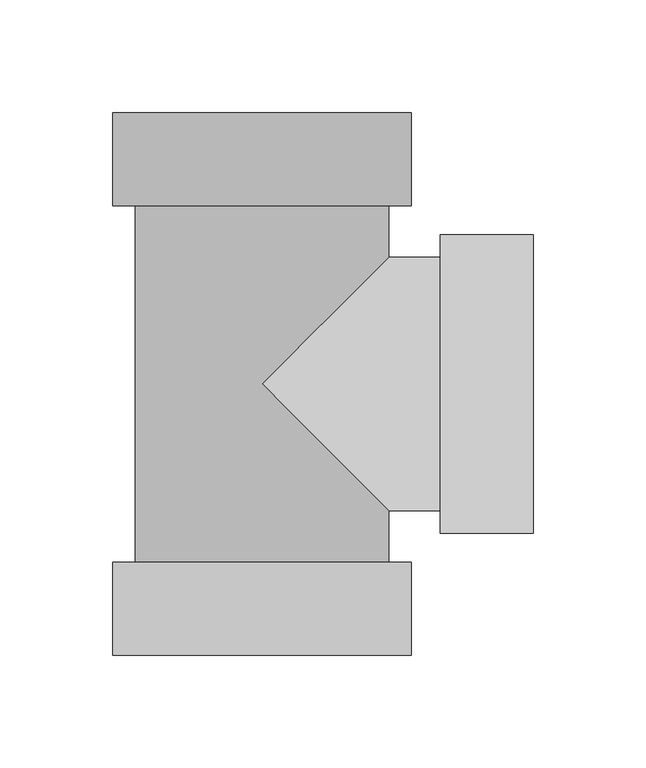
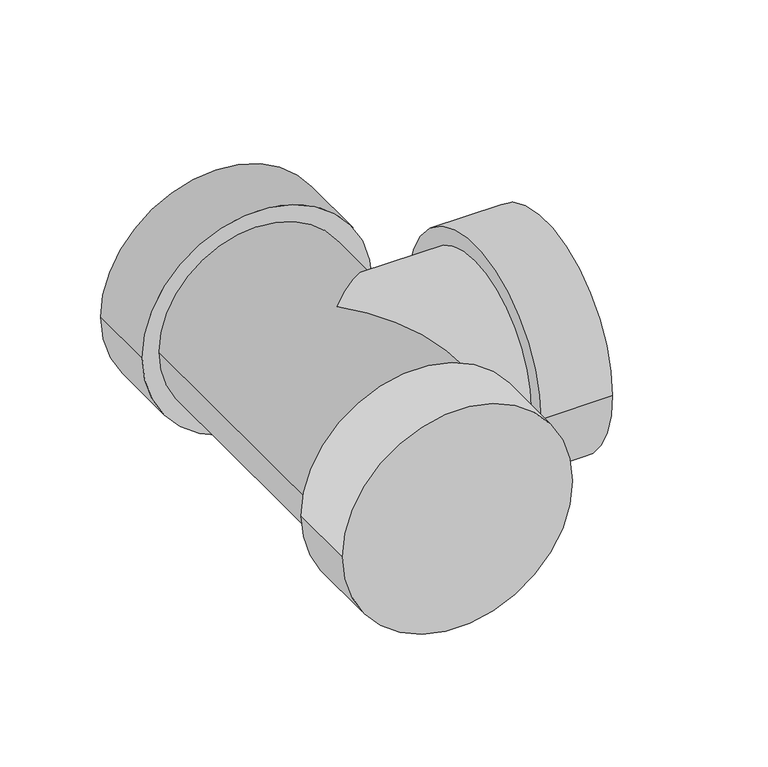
"""IFC4 building model written with IfcOpenShell, lengths in millimetres: pipe fitting geometry, 01011003 : Tes 90º."""

from ifc_helpers import new_model, si_unit, point, frame, origin, origin_2d, place, context, project, spatial, circle_curve, ellipse_curve, trimmed, segment, composite_curve, outline, extrude, source, transform, mapped, element, save
from ifc_brep_helpers import plane_surface, cylinder_surface, advanced_brep


def pipe_fitting_3400dff5(model_context):
    return source(origin(), model_context, "Body", "SolidModel", [
        advanced_brep(
        [(-56.1, 81.0, 0.0), (56.1, 81.0, 0.0), (-56.1, -81.0, 0.0), (56.1, -81.0, 0.0), (56.1, -56.1, 0.0), (0.0, 0.0, 56.1), (56.1, 56.1, 0.0), (0.0, 0.0, -56.1), (81.0, 56.1, 0.0), (81.0, -56.1, 0.0)],
        [
            (0, 1, circle_curve(frame((0.0, 81.0, 0.0), z_axis=(0.0, 1.0, 0.0), x_axis=(1.0, 0.0, 0.0)), 56.1)),
            (1, 0, circle_curve(frame((0.0, 81.0, 0.0), z_axis=(0.0, 1.0, 0.0), x_axis=(1.0, 0.0, 0.0)), 56.1)),
            (2, 3, circle_curve(frame((0.0, -81.0, 0.0), z_axis=(0.0, -1.0, 0.0), x_axis=(1.0, 0.0, 0.0)), 56.1)),
            (3, 2, circle_curve(frame((0.0, -81.0, 0.0), z_axis=(0.0, -1.0, 0.0), x_axis=(1.0, 0.0, 0.0)), 56.1)),
            (0, 2),
            (3, 4),
            (4, 5, ellipse_curve(frame((0.0, 0.0, 0.0), z_axis=(-0.7071067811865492, -0.7071067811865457, 0.0), x_axis=(-0.7071067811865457, 0.7071067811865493, 0.0)), 79.3373808, 56.1)),
            (5, 6, ellipse_curve(frame((0.0, 0.0, 0.0), z_axis=(-0.7071067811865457, 0.7071067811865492, 0.0), x_axis=(0.7071067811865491, 0.7071067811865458, 0.0)), 79.3373808, 56.1)),
            (6, 1),
            (6, 7, ellipse_curve(frame((0.0, 0.0, 0.0), z_axis=(-0.7071067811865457, 0.7071067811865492, 0.0), x_axis=(0.7071067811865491, 0.7071067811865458, 0.0)), 79.3373808, 56.1)),
            (7, 4, ellipse_curve(frame((0.0, 0.0, 0.0), z_axis=(-0.7071067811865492, -0.7071067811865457, 0.0), x_axis=(-0.7071067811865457, 0.7071067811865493, 0.0)), 79.3373808, 56.1)),
            (8, 9, circle_curve(frame((81.0, 0.0, 0.0), z_axis=(1.0, 0.0, 0.0), x_axis=(0.0, -1.0, 0.0)), 56.1)),
            (9, 8, circle_curve(frame((81.0, 0.0, 0.0), z_axis=(1.0, 0.0, 0.0), x_axis=(0.0, -1.0, 0.0)), 56.1)),
            (8, 6),
            (4, 9),
        ],
        [
            plane_surface(frame((0.0, 81.0, 0.0), z_axis=(0.0, 1.0, 0.0), x_axis=(0.0, 0.0, 1.0))),
            plane_surface(frame((0.0, -81.0, 0.0), z_axis=(0.0, -1.0, 0.0), x_axis=(0.0, 0.0, 1.0))),
            cylinder_surface(frame((0.0, 81.0, 0.0), z_axis=(0.0, 1.0, 0.0), x_axis=(1.0, 0.0, 0.0)), 56.1),
            plane_surface(frame((81.0, 0.0, 0.0), z_axis=(1.0, 0.0, 0.0), x_axis=(0.0, 0.0, 1.0))),
            cylinder_surface(frame((81.0, 0.0, 0.0), z_axis=(1.0, 0.0, 0.0), x_axis=(0.0, -1.0, 0.0)), 56.1),
        ],
        [
            (0, [[1, 2]]),
            (1, [[3, 4]]),
            (2, [[-1, 5, -4, 6, 7, 8, 9]]),
            (2, [[-2, -9, 10, 11, -6, -3, -5]]),
            (3, [[12, 13]]),
            (4, [[-12, 14, -8, -7, 15]]),
            (4, [[-13, -15, -11, -10, -14]]),
        ],
    ),
        extrude(outline(composite_curve([segment(trimmed(circle_curve(origin_2d(), 66.0), [point((0.0, -66.0))], [point((0.0, 66.0))], False, "CARTESIAN"), True, "CONTINUOUS"), segment(trimmed(circle_curve(origin_2d(), 66.0), [point((0.0, 66.0))], [point((0.0, -66.0))], False, "CARTESIAN"), True, "CONTINUOUS")], self_intersect=False)), frame((0.0, 79.0, 0.0), z_axis=(0.0, 1.0, 0.0), x_axis=(0.0, 0.0, 1.0)), (0.0, 0.0, 1.0), 41.0),
        extrude(outline(composite_curve([segment(trimmed(circle_curve(origin_2d(), 66.0), [point((0.0, 66.0))], [point((0.0, -66.0))], False, "CARTESIAN"), True, "CONTINUOUS"), segment(trimmed(circle_curve(origin_2d(), 66.0), [point((0.0, -66.0))], [point((0.0, 66.0))], False, "CARTESIAN"), True, "CONTINUOUS")], self_intersect=False)), frame((0.0, -120.0, 0.0), z_axis=(0.0, 1.0, 0.0), x_axis=(0.0, 0.0, 1.0)), (0.0, 0.0, 1.0), 41.0),
        extrude(outline(composite_curve([segment(trimmed(circle_curve(origin_2d(), 66.0), [point((66.0, 0.0))], [point((-66.0, 0.0))], False, "CARTESIAN"), True, "CONTINUOUS"), segment(trimmed(circle_curve(origin_2d(), 66.0), [point((-66.0, 0.0))], [point((66.0, 0.0))], False, "CARTESIAN"), True, "CONTINUOUS")], self_intersect=False)), frame((79.0, 0.0, 0.0), z_axis=(1.0, 0.0, 0.0), x_axis=(0.0, 1.0, 0.0)), (0.0, 0.0, 1.0), 41.0),
    ])


if __name__ == "__main__":
    model = new_model("IFC4")
    model_context = context("Model", 3, world=origin())
    ifc_project = project(units=[si_unit("LENGTHUNIT", "METRE", prefix="MILLI")], contexts=[model_context])
    site = spatial("IfcSite", under=ifc_project)
    building = spatial("IfcBuilding", under=site)
    placement = place(None, origin())
    pipe_fitting_shape = pipe_fitting_3400dff5(model_context)
    element("IfcPipeFitting", 1, ObjectType="01011003 : Tes 90º", at=placement, inside=building, context=model_context, shape_type="MappedRepresentation", body=[
        mapped(pipe_fitting_shape, transform((0.0, 0.0, 0.0), x_axis=(1.0, 0.0, 0.0), y_axis=(0.0, 1.0, 0.0), z_axis=(0.0, 0.0, 1.0))),
    ])
    save(model, "model.ifc")
